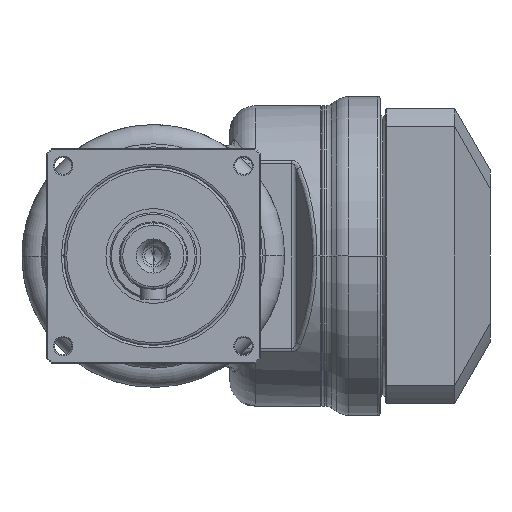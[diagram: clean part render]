
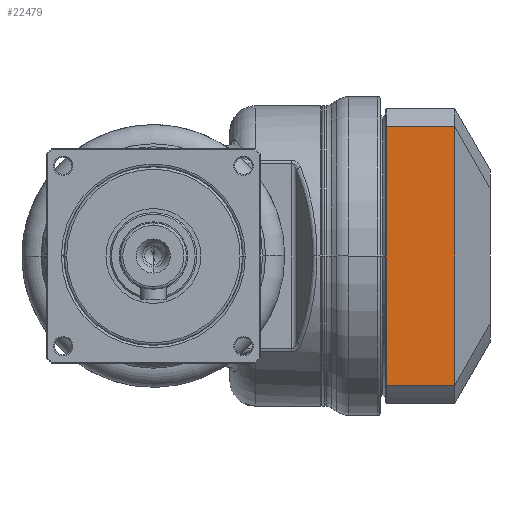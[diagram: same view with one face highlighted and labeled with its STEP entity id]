
A CAD part, left-side view. The second image highlights one B-rep face of the part: STEP entity #22479.
In plain terms, the highlighted planar face has unit normal (-1, 0, 0) as drawn and (0, -1, 0) by its records, which use the part's own axes.
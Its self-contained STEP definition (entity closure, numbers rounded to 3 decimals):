
#21136=DIRECTION('',(1.,0.,0.));
#21137=VECTOR('',#21136,50.646);
#21138=CARTESIAN_POINT('',(-25.323,-29.,15.572));
#21139=LINE('',#21138,#21137);
#21140=DIRECTION('',(0.,0.,1.));
#21141=VECTOR('',#21140,13.372);
#21142=CARTESIAN_POINT('',(25.323,-29.,
2.2));
#21143=LINE('',#21142,#21141);
#21144=DIRECTION('',(1.,0.,0.));
#21145=VECTOR('',#21144,50.646);
#21146=CARTESIAN_POINT('',(-25.323,-29.,
2.2));
#21147=LINE('',#21146,#21145);
#21148=DIRECTION('',(0.,0.,1.));
#21149=VECTOR('',#21148,13.372);
#21150=CARTESIAN_POINT('',(-25.323,-29.,
2.2));
#21151=LINE('',#21150,#21149);
#21157=CARTESIAN_POINT('',(25.323,-29.,15.572));
#21314=CARTESIAN_POINT('',(-25.323,-29.,2.2));
#21316=VERTEX_POINT('',#21314);
#21319=CARTESIAN_POINT('',(25.323,-29.,
2.2));
#21320=VERTEX_POINT('',#21319);
#21366=CARTESIAN_POINT('',(-25.323,-29.,15.572));
#21368=VERTEX_POINT('',#21366);
#21376=VERTEX_POINT('',#21157);
#22467=CARTESIAN_POINT('',(-29.,-29.,0.));
#22468=DIRECTION('',(0.,-1.,0.));
#22469=DIRECTION('',(1.,0.,0.));
#22470=AXIS2_PLACEMENT_3D('',#22467,#22468,#22469);
#22471=PLANE('',#22470);
#22473=ORIENTED_EDGE('',*,*,#22472,.T.);
#22474=ORIENTED_EDGE('',*,*,#22383,.F.);
#22475=ORIENTED_EDGE('',*,*,#22461,.F.);
#22476=ORIENTED_EDGE('',*,*,#22394,.T.);
#22477=EDGE_LOOP('',(#22473,#22474,#22475,#22476));
#22478=FACE_OUTER_BOUND('',#22477,.F.);
#22479=ADVANCED_FACE('',(#22478),#22471,.T.);
#22383=EDGE_CURVE('',#21320,#21376,#21143,.T.);
#22394=EDGE_CURVE('',#21316,#21368,#21151,.T.);
#22461=EDGE_CURVE('',#21316,#21320,#21147,.T.);
#22472=EDGE_CURVE('',#21368,#21376,#21139,.T.);
